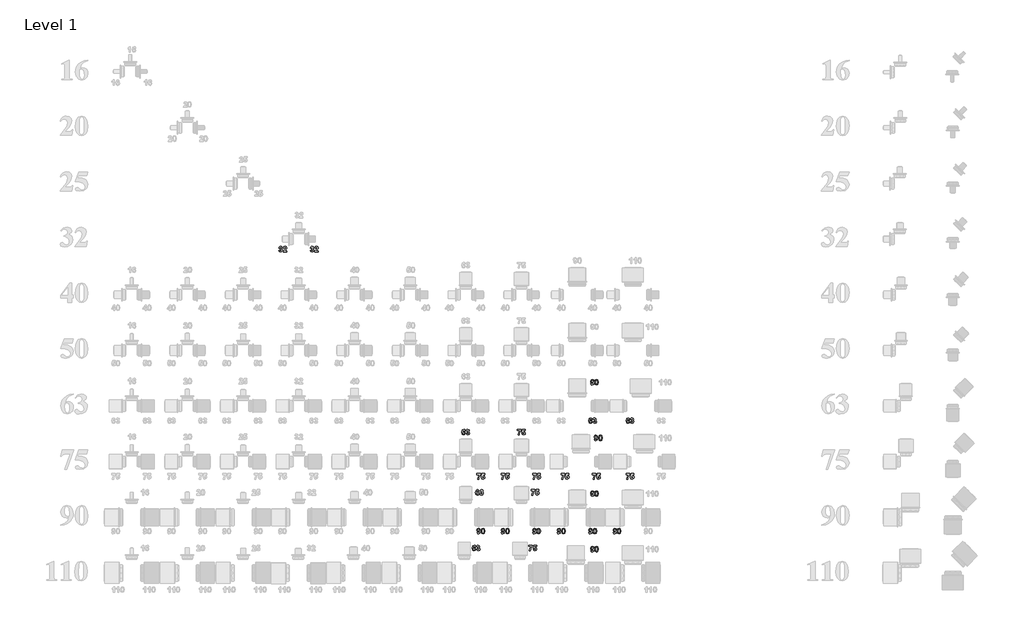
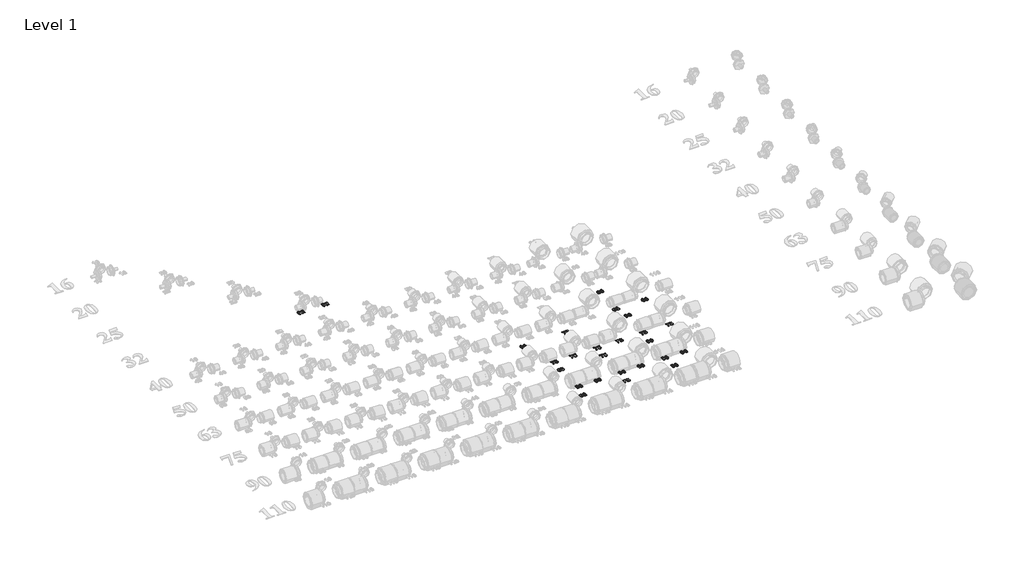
# One storey, part 23 of 57: 26 proxies.
"""IFC4 building model written with IfcOpenShell, lengths in millimetres."""

from ifc_helpers import new_model, si_unit, frame, origin, place, context, project, spatial, polyline, outline, extrude, element, save

model = new_model("IFC4")

# Units and contexts
model_context = context("Model", 3, world=origin())
ifc_project = project(units=[si_unit("LENGTHUNIT", "METRE", prefix="MILLI")], contexts=[model_context])

# Site, building, storey
site = spatial("IfcSite", under=ifc_project)
building = spatial("IfcBuilding", under=site)
storey = spatial("IfcBuildingStorey", under=building, Name="Level 1", Elevation=27.3876384)

# Proxies
placement = place(None, origin())
element("IfcBuildingElementProxy", 1, Name="30mm Arial", ObjectType="30mm Arial", at=placement, inside=storey, context=model_context, shape_type="SweptSolid", body=[
    extrude(outline(polyline([(14058.5952254, 17686.1341541), (14064.4252792, 17686.8097723), (14065.7385595, 17683.560732), (14068.3271641, 17682.437232), (14071.0827754, 17683.7239431), (14072.1986841, 17687.1893331), (14071.1776656, 17690.4611471), (14068.6839512, 17691.6681504), (14066.3686304, 17691.2354511), (14066.8772419, 17696.0406907), (14069.750517, 17696.9971839), (14070.7411707, 17699.6996567), (14070.0010271, 17701.9884083), (14068.0311067, 17702.84242), (14065.9549091, 17701.8517664), (14064.911117, 17698.9557175), (14059.0810633, 17699.8287074), (14060.6866054, 17704.4631446), (14063.6851356, 17707.1921867), (14067.9931506, 17708.1866359), (14074.5367786, 17705.4310246), (14076.5712244, 17700.3297276), (14072.2062753, 17693.8999678), (14076.4421737, 17691.3986622), (14078.0287378, 17686.7034953), (14075.2161924, 17679.9055616), (14068.2132958, 17677.0930161), (14061.6279161, 17679.5943217), (14058.5952254, 17686.1341541)])), frame((0.0, 0.0, 27.3876384), z_axis=(0.0, 0.0, 1.0), x_axis=(1.0, 0.0, 0.0)), (0.0, 0.0, 1.0), 2.0),
    extrude(outline(polyline([(14101.3489527, 17683.4089076), (14101.3489527, 17677.5788539), (14081.9154403, 17677.5788539), (14083.7752882, 17683.298835), (14089.8862169, 17690.4687383), (14094.395399, 17695.3574813), (14095.518899, 17698.864623), (14094.5737926, 17701.8138103), (14091.96621, 17702.84242), (14089.3548318, 17701.8289927), (14088.2313318, 17698.4698797), (14082.4012781, 17699.0012648), (14085.528859, 17706.0497087), (14092.0952607, 17708.1866359), (14098.8818076, 17705.7916074), (14101.3489527, 17699.8362986), (14100.6733345, 17695.979961), (14098.5326116, 17692.146397), (14094.9078061, 17688.3204243), (14091.579058, 17685.003063), (14090.4859229, 17683.4089076), (14101.3489527, 17683.4089076)])), frame((0.0, 0.0, 27.3876384), z_axis=(0.0, 0.0, 1.0), x_axis=(1.0, 0.0, 0.0)), (0.0, 0.0, 1.0), 2.0),
])
element("IfcBuildingElementProxy", 2, Name="30mm Arial", ObjectType="30mm Arial", at=placement, inside=storey, context=model_context, shape_type="SweptSolid", body=[
    extrude(outline(polyline([(14227.3452254, 17686.1341541), (14233.1752792, 17686.8097723), (14234.4885595, 17683.560732), (14237.0771641, 17682.437232), (14239.8327754, 17683.7239431), (14240.9486841, 17687.1893331), (14239.9276656, 17690.4611471), (14237.4339512, 17691.6681504), (14235.1186304, 17691.2354511), (14235.6272419, 17696.0406907), (14238.500517, 17696.9971839), (14239.4911707, 17699.6996567), (14238.7510271, 17701.9884083), (14236.7811067, 17702.84242), (14234.7049091, 17701.8517664), (14233.661117, 17698.9557175), (14227.8310633, 17699.8287074), (14229.4366054, 17704.4631446), (14232.4351356, 17707.1921867), (14236.7431506, 17708.1866359), (14243.2867786, 17705.4310246), (14245.3212244, 17700.3297276), (14240.9562753, 17693.8999678), (14245.1921737, 17691.3986622), (14246.7787378, 17686.7034953), (14243.9661924, 17679.9055616), (14236.9632958, 17677.0930161), (14230.3779161, 17679.5943217), (14227.3452254, 17686.1341541)])), frame((0.0, 0.0, 27.3876384), z_axis=(0.0, 0.0, 1.0), x_axis=(1.0, 0.0, 0.0)), (0.0, 0.0, 1.0), 2.0),
    extrude(outline(polyline([(14270.0989527, 17683.4089076), (14270.0989527, 17677.5788539), (14250.6654403, 17677.5788539), (14252.5252882, 17683.298835), (14258.6362169, 17690.4687383), (14263.145399, 17695.3574813), (14264.268899, 17698.864623), (14263.3237926, 17701.8138103), (14260.71621, 17702.84242), (14258.1048318, 17701.8289927), (14256.9813318, 17698.4698797), (14251.1512781, 17699.0012648), (14254.278859, 17706.0497087), (14260.8452607, 17708.1866359), (14267.6318076, 17705.7916074), (14270.0989527, 17699.8362986), (14269.4233345, 17695.979961), (14267.2826116, 17692.146397), (14263.6578061, 17688.3204243), (14260.329058, 17685.003063), (14259.2359229, 17683.4089076), (14270.0989527, 17683.4089076)])), frame((0.0, 0.0, 27.3876384), z_axis=(0.0, 0.0, 1.0), x_axis=(1.0, 0.0, 0.0)), (0.0, 0.0, 1.0), 2.0),
])
element("IfcBuildingElementProxy", 3, Name="30mm Arial", ObjectType="30mm Arial", at=placement, inside=storey, context=model_context, shape_type="SweptSolid", body=[
    extrude(outline(polyline([(15746.2929, 16775.0640351), (15740.4628463, 16774.4415554), (15739.430441, 16777.0111819), (15737.2593532, 16777.84242), (15734.2684142, 16776.2292867), (15732.7273974, 16769.4541266), (15738.0564309, 16772.0123663), (15744.2167025, 16769.2795286), (15746.7787378, 16762.2272892), (15744.1597684, 16754.8676055), (15737.42636, 16752.0930161), (15730.1843401, 16755.67607), (15727.3452254, 16767.4196808), (15730.3095952, 16779.4897138), (15738.0108836, 16783.1866359), (15743.514515, 16781.1066428), (15746.2929, 16775.0640351)]), holes=[polyline([(15733.1752792, 16762.3563398), (15734.435421, 16758.7163519), (15737.3124918, 16757.437232), (15739.9086876, 16758.4848198), (15740.9486841, 16761.9236405), (15739.8289798, 16765.5256724), (15737.0316168, 16766.6681504), (15734.2949835, 16765.5750153), (15733.1752792, 16762.3563398)])]), frame((0.0, 0.0, 27.3876384), z_axis=(0.0, 0.0, 1.0), x_axis=(1.0, 0.0, 0.0)), (0.0, 0.0, 1.0), 2.0),
    extrude(outline(polyline([(15750.6654403, 16761.1341541), (15756.495494, 16761.8097723), (15757.8087743, 16758.560732), (15760.3973789, 16757.437232), (15763.1529903, 16758.7239431), (15764.268899, 16762.1893331), (15763.2478804, 16765.4611471), (15760.7541661, 16766.6681504), (15758.4388453, 16766.2354511), (15758.9474567, 16771.0406907), (15761.8207319, 16771.9971839), (15762.8113855, 16774.6996567), (15762.071242, 16776.9884083), (15760.1013215, 16777.84242), (15758.025124, 16776.8517664), (15756.9813318, 16773.9557175), (15751.1512781, 16774.8287074), (15752.7568202, 16779.4631446), (15755.7553505, 16782.1921867), (15760.0633654, 16783.1866359), (15766.6069934, 16780.4310246), (15768.6414393, 16775.3297276), (15764.2764902, 16768.8999678), (15768.5123886, 16766.3986622), (15770.0989527, 16761.7034953), (15767.2864072, 16754.9055616), (15760.2835107, 16752.0930161), (15753.698131, 16754.5943217), (15750.6654403, 16761.1341541)])), frame((0.0, 0.0, 27.3876384), z_axis=(0.0, 0.0, 1.0), x_axis=(1.0, 0.0, 0.0)), (0.0, 0.0, 1.0), 2.0),
])
element("IfcBuildingElementProxy", 4, Name="30mm Arial", ObjectType="30mm Arial", at=placement, inside=storey, context=model_context, shape_type="SweptSolid", body=[
    extrude(outline(polyline([(15737.8496462, 16967.5170895), (15743.6796999, 16968.1395692), (15744.7159008, 16965.5737383), (15746.9287402, 16964.7387045), (15749.874132, 16966.3518379), (15751.4303312, 16973.1042243), (15746.0177943, 16970.5687582), (15739.9258437, 16973.2902091), (15737.3638084, 16980.376609), (15739.9941646, 16987.7059278), (15746.6934126, 16990.4881084), (15753.958206, 16986.9088502), (15756.7973207, 16975.1310789), (15753.8291554, 16963.0876151), (15746.1012977, 16959.3944886), (15740.5597102, 16961.4289344), (15737.8496462, 16967.5170895)]), holes=[polyline([(15750.967267, 16980.2399671), (15749.7147164, 16983.8571814), (15746.8224632, 16985.1438925), (15744.2262674, 16984.0887135), (15743.1938621, 16980.6347103), (15744.317362, 16977.0554521), (15747.1185206, 16975.9129741), (15749.8551539, 16977.0099048), (15750.967267, 16980.2399671)])]), frame((0.0, 0.0, 27.3876384), z_axis=(0.0, 0.0, 1.0), x_axis=(1.0, 0.0, 0.0)), (0.0, 0.0, 1.0), 2.0),
    extrude(outline(polyline([(15770.4007794, 16990.4881084), (15777.1949175, 16987.3301627), (15780.1175356, 16974.9337073), (15777.1797351, 16962.5068871), (15770.4007794, 16959.3944886), (15763.3599268, 16962.8105357), (15760.6840232, 16974.994437), (15763.6218237, 16987.37571), (15770.4007794, 16990.4881084)]), holes=[polyline([(15770.4007794, 16985.1438925), (15768.4574282, 16984.5024348), (15767.1365566, 16982.1985008), (15766.5140769, 16974.9337073), (15767.0682357, 16967.9156283), (15768.468815, 16965.372571), (15770.4007794, 16964.7387045), (15772.3441306, 16965.3801623), (15773.6650022, 16967.6840962), (15774.2874819, 16974.9337073), (15773.7333231, 16981.9479907), (15772.3327438, 16984.5024348), (15770.4007794, 16985.1438925)])]), frame((0.0, 0.0, 27.3876384), z_axis=(0.0, 0.0, 1.0), x_axis=(1.0, 0.0, 0.0)), (0.0, 0.0, 1.0), 2.0),
])
element("IfcBuildingElementProxy", 5, Name="30mm Arial", ObjectType="30mm Arial", at=placement, inside=storey, context=model_context, shape_type="SweptSolid", body=[
    extrude(outline(polyline([(15947.5429, 16775.0640351), (15941.7128463, 16774.4415554), (15940.680441, 16777.0111819), (15938.5093532, 16777.84242), (15935.5184142, 16776.2292867), (15933.9773974, 16769.4541266), (15939.3064309, 16772.0123663), (15945.4667025, 16769.2795286), (15948.0287378, 16762.2272892), (15945.4097684, 16754.8676055), (15938.67636, 16752.0930161), (15931.4343401, 16755.67607), (15928.5952254, 16767.4196808), (15931.5595952, 16779.4897138), (15939.2608836, 16783.1866359), (15944.764515, 16781.1066428), (15947.5429, 16775.0640351)]), holes=[polyline([(15934.4252792, 16762.3563398), (15935.685421, 16758.7163519), (15938.5624918, 16757.437232), (15941.1586876, 16758.4848198), (15942.1986841, 16761.9236405), (15941.0789798, 16765.5256724), (15938.2816168, 16766.6681504), (15935.5449835, 16765.5750153), (15934.4252792, 16762.3563398)])]), frame((0.0, 0.0, 27.3876384), z_axis=(0.0, 0.0, 1.0), x_axis=(1.0, 0.0, 0.0)), (0.0, 0.0, 1.0), 2.0),
    extrude(outline(polyline([(15951.9154403, 16761.1341541), (15957.745494, 16761.8097723), (15959.0587743, 16758.560732), (15961.6473789, 16757.437232), (15964.4029903, 16758.7239431), (15965.518899, 16762.1893331), (15964.4978804, 16765.4611471), (15962.0041661, 16766.6681504), (15959.6888453, 16766.2354511), (15960.1974567, 16771.0406907), (15963.0707319, 16771.9971839), (15964.0613855, 16774.6996567), (15963.321242, 16776.9884083), (15961.3513215, 16777.84242), (15959.275124, 16776.8517664), (15958.2313318, 16773.9557175), (15952.4012781, 16774.8287074), (15954.0068202, 16779.4631446), (15957.0053505, 16782.1921867), (15961.3133654, 16783.1866359), (15967.8569934, 16780.4310246), (15969.8914393, 16775.3297276), (15965.5264902, 16768.8999678), (15969.7623886, 16766.3986622), (15971.3489527, 16761.7034953), (15968.5364072, 16754.9055616), (15961.5335107, 16752.0930161), (15954.948131, 16754.5943217), (15951.9154403, 16761.1341541)])), frame((0.0, 0.0, 27.3876384), z_axis=(0.0, 0.0, 1.0), x_axis=(1.0, 0.0, 0.0)), (0.0, 0.0, 1.0), 2.0),
])
element("IfcBuildingElementProxy", 6, Name="30mm Arial", ObjectType="30mm Arial", at=placement, inside=storey, context=model_context, shape_type="SweptSolid", body=[
    extrude(outline(polyline([(15125.3452254, 16476.8707444), (15125.3452254, 16482.7007981), (15144.7787378, 16482.7007981), (15144.7787378, 16478.3282578), (15139.772331, 16471.3595218), (15135.8894242, 16461.7110865), (15134.5761438, 16452.5788539), (15128.7460901, 16452.5788539), (15131.4068112, 16465.2903447), (15138.1136504, 16476.8707444), (15125.3452254, 16476.8707444)])), frame((0.0, 0.0, 27.3876384), z_axis=(0.0, 0.0, 1.0), x_axis=(1.0, 0.0, 0.0)), (0.0, 0.0, 1.0), 2.0),
    extrude(outline(polyline([(15148.6654403, 16461.1948838), (15154.0096562, 16461.8097723), (15155.4975345, 16458.6138705), (15158.3518316, 16457.437232), (15161.4756169, 16458.685987), (15162.7547368, 16462.4474344), (15161.5667115, 16465.9773498), (15158.4732911, 16467.1539882), (15154.2070278, 16464.7247992), (15149.1512781, 16465.4763295), (15152.5521428, 16482.7007981), (15167.1272771, 16482.7007981), (15167.1272771, 16476.8707444), (15157.2662878, 16476.8707444), (15156.0896493, 16471.3063832), (15159.8473011, 16472.4982041), (15166.0417332, 16469.7387972), (15168.5847905, 16462.5764851), (15166.4668413, 16456.0252659), (15158.4429262, 16452.0930161), (15151.7588607, 16454.5601612), (15148.6654403, 16461.1948838)])), frame((0.0, 0.0, 27.3876384), z_axis=(0.0, 0.0, 1.0), x_axis=(1.0, 0.0, 0.0)), (0.0, 0.0, 1.0), 2.0),
])
element("IfcBuildingElementProxy", 7, Name="30mm Arial", ObjectType="30mm Arial", at=placement, inside=storey, context=model_context, shape_type="SweptSolid", body=[
    extrude(outline(polyline([(15062.4710848, 16713.8826756), (15056.6410311, 16713.2601959), (15055.6086258, 16715.8298225), (15053.4375381, 16716.6610606), (15050.446599, 16715.0479272), (15048.9055822, 16708.2727672), (15054.2346157, 16710.8310069), (15060.3948873, 16708.0981692), (15062.9569226, 16701.0459297), (15060.3379532, 16693.686246), (15053.6045448, 16690.9116567), (15046.362525, 16694.4947105), (15043.5234103, 16706.2383213), (15046.48778, 16718.3083544), (15054.1890684, 16722.0052765), (15059.6926998, 16719.9252834), (15062.4710848, 16713.8826756)]), holes=[polyline([(15049.353464, 16701.1749804), (15050.6136058, 16697.5349924), (15053.4906766, 16696.2558726), (15056.0868724, 16697.3034604), (15057.1268689, 16700.7422811), (15056.0071646, 16704.344313), (15053.2098016, 16705.486791), (15050.4731683, 16704.3936559), (15049.353464, 16701.1749804)])]), frame((0.0, 0.0, 27.3876384), z_axis=(0.0, 0.0, 1.0), x_axis=(1.0, 0.0, 0.0)), (0.0, 0.0, 1.0), 2.0),
    extrude(outline(polyline([(15066.8436251, 16699.9527947), (15072.6736788, 16700.6284129), (15073.9869592, 16697.3793725), (15076.5755637, 16696.2558726), (15079.3311751, 16697.5425837), (15080.4470838, 16701.0079737), (15079.4260653, 16704.2797877), (15076.9323509, 16705.486791), (15074.6170301, 16705.0540917), (15075.1256415, 16709.8593313), (15077.9989167, 16710.8158244), (15078.9895703, 16713.5182973), (15078.2494268, 16715.8070488), (15076.2795063, 16716.6610606), (15074.2033088, 16715.6704069), (15073.1595166, 16712.7743581), (15067.3294629, 16713.6473479), (15068.9350051, 16718.2817852), (15071.9335353, 16721.0108272), (15076.2415502, 16722.0052765), (15082.7851782, 16719.2496652), (15084.8196241, 16714.1483682), (15080.454675, 16707.7186084), (15084.6905734, 16705.2173028), (15086.2771375, 16700.5221359), (15083.464592, 16693.7242021), (15076.4616955, 16690.9116567), (15069.8763158, 16693.4129623), (15066.8436251, 16699.9527947)])), frame((0.0, 0.0, 27.3876384), z_axis=(0.0, 0.0, 1.0), x_axis=(1.0, 0.0, 0.0)), (0.0, 0.0, 1.0), 2.0),
])
element("IfcBuildingElementProxy", 8, Name="30mm Arial", ObjectType="30mm Arial", at=placement, inside=storey, context=model_context, shape_type="SweptSolid", body=[
    extrude(outline(polyline([(15256.5952254, 16476.8707444), (15256.5952254, 16482.7007981), (15276.0287378, 16482.7007981), (15276.0287378, 16478.3282578), (15271.022331, 16471.3595218), (15267.1394242, 16461.7110865), (15265.8261438, 16452.5788539), (15259.9960901, 16452.5788539), (15262.6568112, 16465.2903447), (15269.3636504, 16476.8707444), (15256.5952254, 16476.8707444)])), frame((0.0, 0.0, 27.3876384), z_axis=(0.0, 0.0, 1.0), x_axis=(1.0, 0.0, 0.0)), (0.0, 0.0, 1.0), 2.0),
    extrude(outline(polyline([(15279.9154403, 16461.1948838), (15285.2596562, 16461.8097723), (15286.7475345, 16458.6138705), (15289.6018316, 16457.437232), (15292.7256169, 16458.685987), (15294.0047368, 16462.4474344), (15292.8167115, 16465.9773498), (15289.7232911, 16467.1539882), (15285.4570278, 16464.7247992), (15280.4012781, 16465.4763295), (15283.8021428, 16482.7007981), (15298.3772771, 16482.7007981), (15298.3772771, 16476.8707444), (15288.5162878, 16476.8707444), (15287.3396493, 16471.3063832), (15291.0973011, 16472.4982041), (15297.2917332, 16469.7387972), (15299.8347905, 16462.5764851), (15297.7168413, 16456.0252659), (15289.6929262, 16452.0930161), (15283.0088607, 16454.5601612), (15279.9154403, 16461.1948838)])), frame((0.0, 0.0, 27.3876384), z_axis=(0.0, 0.0, 1.0), x_axis=(1.0, 0.0, 0.0)), (0.0, 0.0, 1.0), 2.0),
])
element("IfcBuildingElementProxy", 9, Name="30mm Arial", ObjectType="30mm Arial", at=placement, inside=storey, context=model_context, shape_type="SweptSolid", body=[
    extrude(outline(polyline([(15425.3452254, 16476.8707444), (15425.3452254, 16482.7007981), (15444.7787378, 16482.7007981), (15444.7787378, 16478.3282578), (15439.772331, 16471.3595218), (15435.8894242, 16461.7110865), (15434.5761438, 16452.5788539), (15428.7460901, 16452.5788539), (15431.4068112, 16465.2903447), (15438.1136504, 16476.8707444), (15425.3452254, 16476.8707444)])), frame((0.0, 0.0, 27.3876384), z_axis=(0.0, 0.0, 1.0), x_axis=(1.0, 0.0, 0.0)), (0.0, 0.0, 1.0), 2.0),
    extrude(outline(polyline([(15448.6654403, 16461.1948838), (15454.0096562, 16461.8097723), (15455.4975345, 16458.6138705), (15458.3518316, 16457.437232), (15461.4756169, 16458.685987), (15462.7547368, 16462.4474344), (15461.5667115, 16465.9773498), (15458.4732911, 16467.1539882), (15454.2070278, 16464.7247992), (15449.1512781, 16465.4763295), (15452.5521428, 16482.7007981), (15467.1272771, 16482.7007981), (15467.1272771, 16476.8707444), (15457.2662878, 16476.8707444), (15456.0896493, 16471.3063832), (15459.8473011, 16472.4982041), (15466.0417332, 16469.7387972), (15468.5847905, 16462.5764851), (15466.4668413, 16456.0252659), (15458.4429262, 16452.0930161), (15451.7588607, 16454.5601612), (15448.6654403, 16461.1948838)])), frame((0.0, 0.0, 27.3876384), z_axis=(0.0, 0.0, 1.0), x_axis=(1.0, 0.0, 0.0)), (0.0, 0.0, 1.0), 2.0),
])
element("IfcBuildingElementProxy", 10, Name="30mm Arial", ObjectType="30mm Arial", at=placement, inside=storey, context=model_context, shape_type="SweptSolid", body=[
    extrude(outline(polyline([(15343.5234103, 16715.689385), (15343.5234103, 16721.5194387), (15362.9569226, 16721.5194387), (15362.9569226, 16717.1468984), (15357.9505158, 16710.1781623), (15354.067609, 16700.5297271), (15352.7543286, 16691.3974945), (15346.9242749, 16691.3974945), (15349.584996, 16704.1089853), (15356.2918352, 16715.689385), (15343.5234103, 16715.689385)])), frame((0.0, 0.0, 27.3876384), z_axis=(0.0, 0.0, 1.0), x_axis=(1.0, 0.0, 0.0)), (0.0, 0.0, 1.0), 2.0),
    extrude(outline(polyline([(15366.8436251, 16700.0135244), (15372.187841, 16700.6284129), (15373.6757193, 16697.432511), (15376.5300164, 16696.2558726), (15379.6538017, 16697.5046276), (15380.9329216, 16701.266075), (15379.7448963, 16704.7959903), (15376.6514759, 16705.9726288), (15372.3852126, 16703.5434397), (15367.3294629, 16704.2949701), (15370.7303276, 16721.5194387), (15385.3054619, 16721.5194387), (15385.3054619, 16715.689385), (15375.4444726, 16715.689385), (15374.2678341, 16710.1250238), (15378.0254859, 16711.3168447), (15384.219918, 16708.5574377), (15386.7629753, 16701.3951257), (15384.6450261, 16694.8439065), (15376.621111, 16690.9116567), (15369.9370455, 16693.3788018), (15366.8436251, 16700.0135244)])), frame((0.0, 0.0, 27.3876384), z_axis=(0.0, 0.0, 1.0), x_axis=(1.0, 0.0, 0.0)), (0.0, 0.0, 1.0), 2.0),
])
element("IfcBuildingElementProxy", 11, Name="30mm Arial", ObjectType="30mm Arial", at=placement, inside=storey, context=model_context, shape_type="SweptSolid", body=[
    extrude(outline(polyline([(15578.5952254, 16476.8707444), (15578.5952254, 16482.7007981), (15598.0287378, 16482.7007981), (15598.0287378, 16478.3282578), (15593.022331, 16471.3595218), (15589.1394242, 16461.7110865), (15587.8261438, 16452.5788539), (15581.9960901, 16452.5788539), (15584.6568112, 16465.2903447), (15591.3636504, 16476.8707444), (15578.5952254, 16476.8707444)])), frame((0.0, 0.0, 27.3876384), z_axis=(0.0, 0.0, 1.0), x_axis=(1.0, 0.0, 0.0)), (0.0, 0.0, 1.0), 2.0),
    extrude(outline(polyline([(15601.9154403, 16461.1948838), (15607.2596562, 16461.8097723), (15608.7475345, 16458.6138705), (15611.6018316, 16457.437232), (15614.7256169, 16458.685987), (15616.0047368, 16462.4474344), (15614.8167115, 16465.9773498), (15611.7232911, 16467.1539882), (15607.4570278, 16464.7247992), (15602.4012781, 16465.4763295), (15605.8021428, 16482.7007981), (15620.3772771, 16482.7007981), (15620.3772771, 16476.8707444), (15610.5162878, 16476.8707444), (15609.3396493, 16471.3063832), (15613.0973011, 16472.4982041), (15619.2917332, 16469.7387972), (15621.8347905, 16462.5764851), (15619.7168413, 16456.0252659), (15611.6929262, 16452.0930161), (15605.0088607, 16454.5601612), (15601.9154403, 16461.1948838)])), frame((0.0, 0.0, 27.3876384), z_axis=(0.0, 0.0, 1.0), x_axis=(1.0, 0.0, 0.0)), (0.0, 0.0, 1.0), 2.0),
])
element("IfcBuildingElementProxy", 12, Name="30mm Arial", ObjectType="30mm Arial", at=placement, inside=storey, context=model_context, shape_type="SweptSolid", body=[
    extrude(outline(polyline([(15747.3452254, 16476.8707444), (15747.3452254, 16482.7007981), (15766.7787378, 16482.7007981), (15766.7787378, 16478.3282578), (15761.772331, 16471.3595218), (15757.8894242, 16461.7110865), (15756.5761438, 16452.5788539), (15750.7460901, 16452.5788539), (15753.4068112, 16465.2903447), (15760.1136504, 16476.8707444), (15747.3452254, 16476.8707444)])), frame((0.0, 0.0, 27.3876384), z_axis=(0.0, 0.0, 1.0), x_axis=(1.0, 0.0, 0.0)), (0.0, 0.0, 1.0), 2.0),
    extrude(outline(polyline([(15770.6654403, 16461.1948838), (15776.0096562, 16461.8097723), (15777.4975345, 16458.6138705), (15780.3518316, 16457.437232), (15783.4756169, 16458.685987), (15784.7547368, 16462.4474344), (15783.5667115, 16465.9773498), (15780.4732911, 16467.1539882), (15776.2070278, 16464.7247992), (15771.1512781, 16465.4763295), (15774.5521428, 16482.7007981), (15789.1272771, 16482.7007981), (15789.1272771, 16476.8707444), (15779.2662878, 16476.8707444), (15778.0896493, 16471.3063832), (15781.8473011, 16472.4982041), (15788.0417332, 16469.7387972), (15790.5847905, 16462.5764851), (15788.4668413, 16456.0252659), (15780.4429262, 16452.0930161), (15773.7588607, 16454.5601612), (15770.6654403, 16461.1948838)])), frame((0.0, 0.0, 27.3876384), z_axis=(0.0, 0.0, 1.0), x_axis=(1.0, 0.0, 0.0)), (0.0, 0.0, 1.0), 2.0),
])
element("IfcBuildingElementProxy", 13, Name="30mm Arial", ObjectType="30mm Arial", at=placement, inside=storey, context=model_context, shape_type="SweptSolid", body=[
    extrude(outline(polyline([(15757.8496462, 16667.5170895), (15763.6796999, 16668.1395692), (15764.7159008, 16665.5737383), (15766.9287402, 16664.7387045), (15769.874132, 16666.3518379), (15771.4303312, 16673.1042243), (15766.0177943, 16670.5687582), (15759.9258437, 16673.2902091), (15757.3638084, 16680.376609), (15759.9941646, 16687.7059278), (15766.6934126, 16690.4881084), (15773.958206, 16686.9088502), (15776.7973207, 16675.1310789), (15773.8291554, 16663.0876151), (15766.1012977, 16659.3944886), (15760.5597102, 16661.4289344), (15757.8496462, 16667.5170895)]), holes=[polyline([(15770.967267, 16680.2399671), (15769.7147164, 16683.8571814), (15766.8224632, 16685.1438925), (15764.2262674, 16684.0887135), (15763.1938621, 16680.6347103), (15764.317362, 16677.0554521), (15767.1185206, 16675.9129741), (15769.8551539, 16677.0099048), (15770.967267, 16680.2399671)])]), frame((0.0, 0.0, 27.3876384), z_axis=(0.0, 0.0, 1.0), x_axis=(1.0, 0.0, 0.0)), (0.0, 0.0, 1.0), 2.0),
    extrude(outline(polyline([(15790.4007794, 16690.4881084), (15797.1949175, 16687.3301627), (15800.1175356, 16674.9337073), (15797.1797351, 16662.5068871), (15790.4007794, 16659.3944886), (15783.3599268, 16662.8105357), (15780.6840232, 16674.994437), (15783.6218237, 16687.37571), (15790.4007794, 16690.4881084)]), holes=[polyline([(15790.4007794, 16685.1438925), (15788.4574282, 16684.5024348), (15787.1365566, 16682.1985008), (15786.5140769, 16674.9337073), (15787.0682357, 16667.9156283), (15788.468815, 16665.372571), (15790.4007794, 16664.7387045), (15792.3441306, 16665.3801623), (15793.6650022, 16667.6840962), (15794.2874819, 16674.9337073), (15793.7333231, 16681.9479907), (15792.3327438, 16684.5024348), (15790.4007794, 16685.1438925)])]), frame((0.0, 0.0, 27.3876384), z_axis=(0.0, 0.0, 1.0), x_axis=(1.0, 0.0, 0.0)), (0.0, 0.0, 1.0), 2.0),
])
element("IfcBuildingElementProxy", 14, Name="30mm Arial", ObjectType="30mm Arial", at=placement, inside=storey, context=model_context, shape_type="SweptSolid", body=[
    extrude(outline(polyline([(15928.5952254, 16476.8707444), (15928.5952254, 16482.7007981), (15948.0287378, 16482.7007981), (15948.0287378, 16478.3282578), (15943.022331, 16471.3595218), (15939.1394242, 16461.7110865), (15937.8261438, 16452.5788539), (15931.9960901, 16452.5788539), (15934.6568112, 16465.2903447), (15941.3636504, 16476.8707444), (15928.5952254, 16476.8707444)])), frame((0.0, 0.0, 27.3876384), z_axis=(0.0, 0.0, 1.0), x_axis=(1.0, 0.0, 0.0)), (0.0, 0.0, 1.0), 2.0),
    extrude(outline(polyline([(15951.9154403, 16461.1948838), (15957.2596562, 16461.8097723), (15958.7475345, 16458.6138705), (15961.6018316, 16457.437232), (15964.7256169, 16458.685987), (15966.0047368, 16462.4474344), (15964.8167115, 16465.9773498), (15961.7232911, 16467.1539882), (15957.4570278, 16464.7247992), (15952.4012781, 16465.4763295), (15955.8021428, 16482.7007981), (15970.3772771, 16482.7007981), (15970.3772771, 16476.8707444), (15960.5162878, 16476.8707444), (15959.3396493, 16471.3063832), (15963.0973011, 16472.4982041), (15969.2917332, 16469.7387972), (15971.8347905, 16462.5764851), (15969.7168413, 16456.0252659), (15961.6929262, 16452.0930161), (15955.0088607, 16454.5601612), (15951.9154403, 16461.1948838)])), frame((0.0, 0.0, 27.3876384), z_axis=(0.0, 0.0, 1.0), x_axis=(1.0, 0.0, 0.0)), (0.0, 0.0, 1.0), 2.0),
])
element("IfcBuildingElementProxy", 15, Name="30mm Arial", ObjectType="30mm Arial", at=placement, inside=storey, context=model_context, shape_type="SweptSolid", body=[
    extrude(outline(polyline([(15125.8310633, 16165.215617), (15131.661117, 16165.8380967), (15132.6973179, 16163.2722658), (15134.9101573, 16162.437232), (15137.855549, 16164.0503654), (15139.4117483, 16170.8027518), (15133.9992114, 16168.2672857), (15127.9072608, 16170.9887366), (15125.3452254, 16178.0751365), (15127.9755817, 16185.4044553), (15134.6748296, 16188.1866359), (15141.9396231, 16184.6073777), (15144.7787378, 16172.8296064), (15141.8105725, 16160.7861426), (15134.0827148, 16157.0930161), (15128.5411273, 16159.1274619), (15125.8310633, 16165.215617)]), holes=[polyline([(15138.9486841, 16177.9384946), (15137.6961335, 16181.555709), (15134.8038803, 16182.84242), (15132.2076845, 16181.787241), (15131.1752792, 16178.3332379), (15132.2987791, 16174.7539796), (15135.0999377, 16173.6115016), (15137.836571, 16174.7084323), (15138.9486841, 16177.9384946)])]), frame((0.0, 0.0, 27.3876384), z_axis=(0.0, 0.0, 1.0), x_axis=(1.0, 0.0, 0.0)), (0.0, 0.0, 1.0), 2.0),
    extrude(outline(polyline([(15158.3821965, 16188.1866359), (15165.1763346, 16185.0286902), (15168.0989527, 16172.6322348), (15165.1611522, 16160.2054146), (15158.3821965, 16157.0930161), (15151.3413439, 16160.5090632), (15148.6654403, 16172.6929645), (15151.6032408, 16185.0742375), (15158.3821965, 16188.1866359)]), holes=[polyline([(15158.3821965, 16182.84242), (15156.4388453, 16182.2009623), (15155.1179737, 16179.8970283), (15154.495494, 16172.6322348), (15155.0496528, 16165.6141558), (15156.4502321, 16163.0710985), (15158.3821965, 16162.437232), (15160.3255477, 16163.0786898), (15161.6464193, 16165.3826237), (15162.268899, 16172.6322348), (15161.7147402, 16179.6465182), (15160.3141609, 16182.2009623), (15158.3821965, 16182.84242)])]), frame((0.0, 0.0, 27.3876384), z_axis=(0.0, 0.0, 1.0), x_axis=(1.0, 0.0, 0.0)), (0.0, 0.0, 1.0), 2.0),
])
element("IfcBuildingElementProxy", 16, Name="30mm Arial", ObjectType="30mm Arial", at=placement, inside=storey, context=model_context, shape_type="SweptSolid", body=[
    extrude(outline(polyline([(15257.0810633, 16165.215617), (15262.911117, 16165.8380967), (15263.9473179, 16163.2722658), (15266.1601573, 16162.437232), (15269.105549, 16164.0503654), (15270.6617483, 16170.8027518), (15265.2492114, 16168.2672857), (15259.1572608, 16170.9887366), (15256.5952254, 16178.0751365), (15259.2255817, 16185.4044553), (15265.9248296, 16188.1866359), (15273.1896231, 16184.6073777), (15276.0287378, 16172.8296064), (15273.0605725, 16160.7861426), (15265.3327148, 16157.0930161), (15259.7911273, 16159.1274619), (15257.0810633, 16165.215617)]), holes=[polyline([(15270.1986841, 16177.9384946), (15268.9461335, 16181.555709), (15266.0538803, 16182.84242), (15263.4576845, 16181.787241), (15262.4252792, 16178.3332379), (15263.5487791, 16174.7539796), (15266.3499377, 16173.6115016), (15269.086571, 16174.7084323), (15270.1986841, 16177.9384946)])]), frame((0.0, 0.0, 27.3876384), z_axis=(0.0, 0.0, 1.0), x_axis=(1.0, 0.0, 0.0)), (0.0, 0.0, 1.0), 2.0),
    extrude(outline(polyline([(15289.6321965, 16188.1866359), (15296.4263346, 16185.0286902), (15299.3489527, 16172.6322348), (15296.4111522, 16160.2054146), (15289.6321965, 16157.0930161), (15282.5913439, 16160.5090632), (15279.9154403, 16172.6929645), (15282.8532408, 16185.0742375), (15289.6321965, 16188.1866359)]), holes=[polyline([(15289.6321965, 16182.84242), (15287.6888453, 16182.2009623), (15286.3679737, 16179.8970283), (15285.745494, 16172.6322348), (15286.2996528, 16165.6141558), (15287.7002321, 16163.0710985), (15289.6321965, 16162.437232), (15291.5755477, 16163.0786898), (15292.8964193, 16165.3826237), (15293.518899, 16172.6322348), (15292.9647402, 16179.6465182), (15291.5641609, 16182.2009623), (15289.6321965, 16182.84242)])]), frame((0.0, 0.0, 27.3876384), z_axis=(0.0, 0.0, 1.0), x_axis=(1.0, 0.0, 0.0)), (0.0, 0.0, 1.0), 2.0),
])
element("IfcBuildingElementProxy", 17, Name="30mm Arial", ObjectType="30mm Arial", at=placement, inside=storey, context=model_context, shape_type="SweptSolid", body=[
    extrude(outline(polyline([(15425.8310633, 16165.215617), (15431.661117, 16165.8380967), (15432.6973179, 16163.2722658), (15434.9101573, 16162.437232), (15437.855549, 16164.0503654), (15439.4117483, 16170.8027518), (15433.9992114, 16168.2672857), (15427.9072608, 16170.9887366), (15425.3452254, 16178.0751365), (15427.9755817, 16185.4044553), (15434.6748296, 16188.1866359), (15441.9396231, 16184.6073777), (15444.7787378, 16172.8296064), (15441.8105725, 16160.7861426), (15434.0827148, 16157.0930161), (15428.5411273, 16159.1274619), (15425.8310633, 16165.215617)]), holes=[polyline([(15438.9486841, 16177.9384946), (15437.6961335, 16181.555709), (15434.8038803, 16182.84242), (15432.2076845, 16181.787241), (15431.1752792, 16178.3332379), (15432.2987791, 16174.7539796), (15435.0999377, 16173.6115016), (15437.836571, 16174.7084323), (15438.9486841, 16177.9384946)])]), frame((0.0, 0.0, 27.3876384), z_axis=(0.0, 0.0, 1.0), x_axis=(1.0, 0.0, 0.0)), (0.0, 0.0, 1.0), 2.0),
    extrude(outline(polyline([(15458.3821965, 16188.1866359), (15465.1763346, 16185.0286902), (15468.0989527, 16172.6322348), (15465.1611522, 16160.2054146), (15458.3821965, 16157.0930161), (15451.3413439, 16160.5090632), (15448.6654403, 16172.6929645), (15451.6032408, 16185.0742375), (15458.3821965, 16188.1866359)]), holes=[polyline([(15458.3821965, 16182.84242), (15456.4388453, 16182.2009623), (15455.1179737, 16179.8970283), (15454.495494, 16172.6322348), (15455.0496528, 16165.6141558), (15456.4502321, 16163.0710985), (15458.3821965, 16162.437232), (15460.3255477, 16163.0786898), (15461.6464193, 16165.3826237), (15462.268899, 16172.6322348), (15461.7147402, 16179.6465182), (15460.3141609, 16182.2009623), (15458.3821965, 16182.84242)])]), frame((0.0, 0.0, 27.3876384), z_axis=(0.0, 0.0, 1.0), x_axis=(1.0, 0.0, 0.0)), (0.0, 0.0, 1.0), 2.0),
])
element("IfcBuildingElementProxy", 18, Name="30mm Arial", ObjectType="30mm Arial", at=placement, inside=storey, context=model_context, shape_type="SweptSolid", body=[
    extrude(outline(polyline([(15559.0810633, 16165.215617), (15564.911117, 16165.8380967), (15565.9473179, 16163.2722658), (15568.1601573, 16162.437232), (15571.105549, 16164.0503654), (15572.6617483, 16170.8027518), (15567.2492114, 16168.2672857), (15561.1572608, 16170.9887366), (15558.5952254, 16178.0751365), (15561.2255817, 16185.4044553), (15567.9248296, 16188.1866359), (15575.1896231, 16184.6073777), (15578.0287378, 16172.8296064), (15575.0605725, 16160.7861426), (15567.3327148, 16157.0930161), (15561.7911273, 16159.1274619), (15559.0810633, 16165.215617)]), holes=[polyline([(15572.1986841, 16177.9384946), (15570.9461335, 16181.555709), (15568.0538803, 16182.84242), (15565.4576845, 16181.787241), (15564.4252792, 16178.3332379), (15565.5487791, 16174.7539796), (15568.3499377, 16173.6115016), (15571.086571, 16174.7084323), (15572.1986841, 16177.9384946)])]), frame((0.0, 0.0, 27.3876384), z_axis=(0.0, 0.0, 1.0), x_axis=(1.0, 0.0, 0.0)), (0.0, 0.0, 1.0), 2.0),
    extrude(outline(polyline([(15591.6321965, 16188.1866359), (15598.4263346, 16185.0286902), (15601.3489527, 16172.6322348), (15598.4111522, 16160.2054146), (15591.6321965, 16157.0930161), (15584.5913439, 16160.5090632), (15581.9154403, 16172.6929645), (15584.8532408, 16185.0742375), (15591.6321965, 16188.1866359)]), holes=[polyline([(15591.6321965, 16182.84242), (15589.6888453, 16182.2009623), (15588.3679737, 16179.8970283), (15587.745494, 16172.6322348), (15588.2996528, 16165.6141558), (15589.7002321, 16163.0710985), (15591.6321965, 16162.437232), (15593.5755477, 16163.0786898), (15594.8964193, 16165.3826237), (15595.518899, 16172.6322348), (15594.9647402, 16179.6465182), (15593.5641609, 16182.2009623), (15591.6321965, 16182.84242)])]), frame((0.0, 0.0, 27.3876384), z_axis=(0.0, 0.0, 1.0), x_axis=(1.0, 0.0, 0.0)), (0.0, 0.0, 1.0), 2.0),
])
element("IfcBuildingElementProxy", 19, Name="30mm Arial", ObjectType="30mm Arial", at=placement, inside=storey, context=model_context, shape_type="SweptSolid", body=[
    extrude(outline(polyline([(15727.8310633, 16165.215617), (15733.661117, 16165.8380967), (15734.6973179, 16163.2722658), (15736.9101573, 16162.437232), (15739.855549, 16164.0503654), (15741.4117483, 16170.8027518), (15735.9992114, 16168.2672857), (15729.9072608, 16170.9887366), (15727.3452254, 16178.0751365), (15729.9755817, 16185.4044553), (15736.6748296, 16188.1866359), (15743.9396231, 16184.6073777), (15746.7787378, 16172.8296064), (15743.8105725, 16160.7861426), (15736.0827148, 16157.0930161), (15730.5411273, 16159.1274619), (15727.8310633, 16165.215617)]), holes=[polyline([(15740.9486841, 16177.9384946), (15739.6961335, 16181.555709), (15736.8038803, 16182.84242), (15734.2076845, 16181.787241), (15733.1752792, 16178.3332379), (15734.2987791, 16174.7539796), (15737.0999377, 16173.6115016), (15739.836571, 16174.7084323), (15740.9486841, 16177.9384946)])]), frame((0.0, 0.0, 27.3876384), z_axis=(0.0, 0.0, 1.0), x_axis=(1.0, 0.0, 0.0)), (0.0, 0.0, 1.0), 2.0),
    extrude(outline(polyline([(15760.3821965, 16188.1866359), (15767.1763346, 16185.0286902), (15770.0989527, 16172.6322348), (15767.1611522, 16160.2054146), (15760.3821965, 16157.0930161), (15753.3413439, 16160.5090632), (15750.6654403, 16172.6929645), (15753.6032408, 16185.0742375), (15760.3821965, 16188.1866359)]), holes=[polyline([(15760.3821965, 16182.84242), (15758.4388453, 16182.2009623), (15757.1179737, 16179.8970283), (15756.495494, 16172.6322348), (15757.0496528, 16165.6141558), (15758.4502321, 16163.0710985), (15760.3821965, 16162.437232), (15762.3255477, 16163.0786898), (15763.6464193, 16165.3826237), (15764.268899, 16172.6322348), (15763.7147402, 16179.6465182), (15762.3141609, 16182.2009623), (15760.3821965, 16182.84242)])]), frame((0.0, 0.0, 27.3876384), z_axis=(0.0, 0.0, 1.0), x_axis=(1.0, 0.0, 0.0)), (0.0, 0.0, 1.0), 2.0),
])
element("IfcBuildingElementProxy", 20, Name="30mm Arial", ObjectType="30mm Arial", at=placement, inside=storey, context=model_context, shape_type="SweptSolid", body=[
    extrude(outline(polyline([(15737.8496462, 16367.5170895), (15743.6796999, 16368.1395692), (15744.7159008, 16365.5737383), (15746.9287402, 16364.7387045), (15749.874132, 16366.3518379), (15751.4303312, 16373.1042243), (15746.0177943, 16370.5687582), (15739.9258437, 16373.2902091), (15737.3638084, 16380.376609), (15739.9941646, 16387.7059278), (15746.6934126, 16390.4881084), (15753.958206, 16386.9088502), (15756.7973207, 16375.1310789), (15753.8291554, 16363.0876151), (15746.1012977, 16359.3944886), (15740.5597102, 16361.4289344), (15737.8496462, 16367.5170895)]), holes=[polyline([(15750.967267, 16380.2399671), (15749.7147164, 16383.8571814), (15746.8224632, 16385.1438925), (15744.2262674, 16384.0887135), (15743.1938621, 16380.6347103), (15744.317362, 16377.0554521), (15747.1185206, 16375.9129741), (15749.8551539, 16377.0099048), (15750.967267, 16380.2399671)])]), frame((0.0, 0.0, 27.3876384), z_axis=(0.0, 0.0, 1.0), x_axis=(1.0, 0.0, 0.0)), (0.0, 0.0, 1.0), 2.0),
    extrude(outline(polyline([(15770.4007794, 16390.4881084), (15777.1949175, 16387.3301627), (15780.1175356, 16374.9337073), (15777.1797351, 16362.5068871), (15770.4007794, 16359.3944886), (15763.3599268, 16362.8105357), (15760.6840232, 16374.994437), (15763.6218237, 16387.37571), (15770.4007794, 16390.4881084)]), holes=[polyline([(15770.4007794, 16385.1438925), (15768.4574282, 16384.5024348), (15767.1365566, 16382.1985008), (15766.5140769, 16374.9337073), (15767.0682357, 16367.9156283), (15768.468815, 16365.372571), (15770.4007794, 16364.7387045), (15772.3441306, 16365.3801623), (15773.6650022, 16367.6840962), (15774.2874819, 16374.9337073), (15773.7333231, 16381.9479907), (15772.3327438, 16384.5024348), (15770.4007794, 16385.1438925)])]), frame((0.0, 0.0, 27.3876384), z_axis=(0.0, 0.0, 1.0), x_axis=(1.0, 0.0, 0.0)), (0.0, 0.0, 1.0), 2.0),
])
element("IfcBuildingElementProxy", 21, Name="30mm Arial", ObjectType="30mm Arial", at=placement, inside=storey, context=model_context, shape_type="SweptSolid", body=[
    extrude(outline(polyline([(15859.0810633, 16165.215617), (15864.911117, 16165.8380967), (15865.9473179, 16163.2722658), (15868.1601573, 16162.437232), (15871.105549, 16164.0503654), (15872.6617483, 16170.8027518), (15867.2492114, 16168.2672857), (15861.1572608, 16170.9887366), (15858.5952254, 16178.0751365), (15861.2255817, 16185.4044553), (15867.9248296, 16188.1866359), (15875.1896231, 16184.6073777), (15878.0287378, 16172.8296064), (15875.0605725, 16160.7861426), (15867.3327148, 16157.0930161), (15861.7911273, 16159.1274619), (15859.0810633, 16165.215617)]), holes=[polyline([(15872.1986841, 16177.9384946), (15870.9461335, 16181.555709), (15868.0538803, 16182.84242), (15865.4576845, 16181.787241), (15864.4252792, 16178.3332379), (15865.5487791, 16174.7539796), (15868.3499377, 16173.6115016), (15871.086571, 16174.7084323), (15872.1986841, 16177.9384946)])]), frame((0.0, 0.0, 27.3876384), z_axis=(0.0, 0.0, 1.0), x_axis=(1.0, 0.0, 0.0)), (0.0, 0.0, 1.0), 2.0),
    extrude(outline(polyline([(15891.6321965, 16188.1866359), (15898.4263346, 16185.0286902), (15901.3489527, 16172.6322348), (15898.4111522, 16160.2054146), (15891.6321965, 16157.0930161), (15884.5913439, 16160.5090632), (15881.9154403, 16172.6929645), (15884.8532408, 16185.0742375), (15891.6321965, 16188.1866359)]), holes=[polyline([(15891.6321965, 16182.84242), (15889.6888453, 16182.2009623), (15888.3679737, 16179.8970283), (15887.745494, 16172.6322348), (15888.2996528, 16165.6141558), (15889.7002321, 16163.0710985), (15891.6321965, 16162.437232), (15893.5755477, 16163.0786898), (15894.8964193, 16165.3826237), (15895.518899, 16172.6322348), (15894.9647402, 16179.6465182), (15893.5641609, 16182.2009623), (15891.6321965, 16182.84242)])]), frame((0.0, 0.0, 27.3876384), z_axis=(0.0, 0.0, 1.0), x_axis=(1.0, 0.0, 0.0)), (0.0, 0.0, 1.0), 2.0),
])
element("IfcBuildingElementProxy", 22, Name="30mm Arial", ObjectType="30mm Arial", at=placement, inside=storey, context=model_context, shape_type="SweptSolid", body=[
    extrude(outline(polyline([(15136.4710848, 16388.8826756), (15130.6410311, 16388.2601959), (15129.6086258, 16390.8298225), (15127.4375381, 16391.6610606), (15124.446599, 16390.0479272), (15122.9055822, 16383.2727672), (15128.2346157, 16385.8310069), (15134.3948873, 16383.0981692), (15136.9569226, 16376.0459297), (15134.3379532, 16368.686246), (15127.6045448, 16365.9116567), (15120.362525, 16369.4947105), (15117.5234103, 16381.2383213), (15120.48778, 16393.3083544), (15128.1890684, 16397.0052765), (15133.6926998, 16394.9252834), (15136.4710848, 16388.8826756)]), holes=[polyline([(15123.353464, 16376.1749804), (15124.6136058, 16372.5349924), (15127.4906766, 16371.2558726), (15130.0868724, 16372.3034604), (15131.1268689, 16375.7422811), (15130.0071646, 16379.344313), (15127.2098016, 16380.486791), (15124.4731683, 16379.3936559), (15123.353464, 16376.1749804)])]), frame((0.0, 0.0, 27.3876384), z_axis=(0.0, 0.0, 1.0), x_axis=(1.0, 0.0, 0.0)), (0.0, 0.0, 1.0), 2.0),
    extrude(outline(polyline([(15140.8436251, 16374.9527947), (15146.6736788, 16375.6284129), (15147.9869592, 16372.3793725), (15150.5755637, 16371.2558726), (15153.3311751, 16372.5425837), (15154.4470838, 16376.0079737), (15153.4260653, 16379.2797877), (15150.9323509, 16380.486791), (15148.6170301, 16380.0540917), (15149.1256415, 16384.8593313), (15151.9989167, 16385.8158244), (15152.9895703, 16388.5182973), (15152.2494268, 16390.8070488), (15150.2795063, 16391.6610606), (15148.2033088, 16390.6704069), (15147.1595166, 16387.7743581), (15141.3294629, 16388.6473479), (15142.9350051, 16393.2817852), (15145.9335353, 16396.0108272), (15150.2415502, 16397.0052765), (15156.7851782, 16394.2496652), (15158.8196241, 16389.1483682), (15154.454675, 16382.7186084), (15158.6905734, 16380.2173028), (15160.2771375, 16375.5221359), (15157.464592, 16368.7242021), (15150.4616955, 16365.9116567), (15143.8763158, 16368.4129623), (15140.8436251, 16374.9527947)])), frame((0.0, 0.0, 27.3876384), z_axis=(0.0, 0.0, 1.0), x_axis=(1.0, 0.0, 0.0)), (0.0, 0.0, 1.0), 2.0),
])
element("IfcBuildingElementProxy", 23, Name="30mm Arial", ObjectType="30mm Arial", at=placement, inside=storey, context=model_context, shape_type="SweptSolid", body=[
    extrude(outline(polyline([(15417.5234103, 16390.689385), (15417.5234103, 16396.5194387), (15436.9569226, 16396.5194387), (15436.9569226, 16392.1468984), (15431.9505158, 16385.1781623), (15428.067609, 16375.5297271), (15426.7543286, 16366.3974945), (15420.9242749, 16366.3974945), (15423.584996, 16379.1089853), (15430.2918352, 16390.689385), (15417.5234103, 16390.689385)])), frame((0.0, 0.0, 27.3876384), z_axis=(0.0, 0.0, 1.0), x_axis=(1.0, 0.0, 0.0)), (0.0, 0.0, 1.0), 2.0),
    extrude(outline(polyline([(15440.8436251, 16375.0135244), (15446.187841, 16375.6284129), (15447.6757193, 16372.432511), (15450.5300164, 16371.2558726), (15453.6538017, 16372.5046276), (15454.9329216, 16376.266075), (15453.7448963, 16379.7959903), (15450.6514759, 16380.9726288), (15446.3852126, 16378.5434397), (15441.3294629, 16379.2949701), (15444.7303276, 16396.5194387), (15459.3054619, 16396.5194387), (15459.3054619, 16390.689385), (15449.4444726, 16390.689385), (15448.2678341, 16385.1250238), (15452.0254859, 16386.3168447), (15458.219918, 16383.5574377), (15460.7629753, 16376.3951257), (15458.6450261, 16369.8439065), (15450.621111, 16365.9116567), (15443.9370455, 16368.3788018), (15440.8436251, 16375.0135244)])), frame((0.0, 0.0, 27.3876384), z_axis=(0.0, 0.0, 1.0), x_axis=(1.0, 0.0, 0.0)), (0.0, 0.0, 1.0), 2.0),
])
element("IfcBuildingElementProxy", 24, Name="30mm Arial", ObjectType="30mm Arial", at=placement, inside=storey, context=model_context, shape_type="SweptSolid", body=[
    extrude(outline(polyline([(15737.8496462, 16067.5170895), (15743.6796999, 16068.1395692), (15744.7159008, 16065.5737383), (15746.9287402, 16064.7387045), (15749.874132, 16066.3518379), (15751.4303312, 16073.1042243), (15746.0177943, 16070.5687582), (15739.9258437, 16073.2902091), (15737.3638084, 16080.376609), (15739.9941646, 16087.7059278), (15746.6934126, 16090.4881084), (15753.958206, 16086.9088502), (15756.7973207, 16075.1310789), (15753.8291554, 16063.0876151), (15746.1012977, 16059.3944886), (15740.5597102, 16061.4289344), (15737.8496462, 16067.5170895)]), holes=[polyline([(15750.967267, 16080.2399671), (15749.7147164, 16083.8571814), (15746.8224632, 16085.1438925), (15744.2262674, 16084.0887135), (15743.1938621, 16080.6347103), (15744.317362, 16077.0554521), (15747.1185206, 16075.9129741), (15749.8551539, 16077.0099048), (15750.967267, 16080.2399671)])]), frame((0.0, 0.0, 27.3876384), z_axis=(0.0, 0.0, 1.0), x_axis=(1.0, 0.0, 0.0)), (0.0, 0.0, 1.0), 2.0),
    extrude(outline(polyline([(15770.4007794, 16090.4881084), (15777.1949175, 16087.3301627), (15780.1175356, 16074.9337073), (15777.1797351, 16062.5068871), (15770.4007794, 16059.3944886), (15763.3599268, 16062.8105357), (15760.6840232, 16074.994437), (15763.6218237, 16087.37571), (15770.4007794, 16090.4881084)]), holes=[polyline([(15770.4007794, 16085.1438925), (15768.4574282, 16084.5024348), (15767.1365566, 16082.1985008), (15766.5140769, 16074.9337073), (15767.0682357, 16067.9156283), (15768.468815, 16065.372571), (15770.4007794, 16064.7387045), (15772.3441306, 16065.3801623), (15773.6650022, 16067.6840962), (15774.2874819, 16074.9337073), (15773.7333231, 16081.9479907), (15772.3327438, 16084.5024348), (15770.4007794, 16085.1438925)])]), frame((0.0, 0.0, 27.3876384), z_axis=(0.0, 0.0, 1.0), x_axis=(1.0, 0.0, 0.0)), (0.0, 0.0, 1.0), 2.0),
])
element("IfcBuildingElementProxy", 25, Name="30mm Arial", ObjectType="30mm Arial", at=placement, inside=storey, context=model_context, shape_type="SweptSolid", body=[
    extrude(outline(polyline([(15118.4016645, 16088.8826756), (15112.5716107, 16088.2601959), (15111.5392054, 16090.8298225), (15109.3681177, 16091.6610606), (15106.3771787, 16090.0479272), (15104.8361619, 16083.2727672), (15110.1651953, 16085.8310069), (15116.3254669, 16083.0981692), (15118.8875023, 16076.0459297), (15116.2685328, 16068.686246), (15109.5351244, 16065.9116567), (15102.2931046, 16069.4947105), (15099.4539899, 16081.2383213), (15102.4183597, 16093.3083544), (15110.1196481, 16097.0052765), (15115.6232795, 16094.9252834), (15118.4016645, 16088.8826756)]), holes=[polyline([(15105.2840436, 16076.1749804), (15106.5441854, 16072.5349924), (15109.4212562, 16071.2558726), (15112.017452, 16072.3034604), (15113.0574486, 16075.7422811), (15111.9377442, 16079.344313), (15109.1403812, 16080.486791), (15106.4037479, 16079.3936559), (15105.2840436, 16076.1749804)])]), frame((0.0, 0.0, 27.3876384), z_axis=(0.0, 0.0, 1.0), x_axis=(1.0, 0.0, 0.0)), (0.0, 0.0, 1.0), 2.0),
    extrude(outline(polyline([(15122.7742047, 16074.9527947), (15128.6042585, 16075.6284129), (15129.9175388, 16072.3793725), (15132.5061434, 16071.2558726), (15135.2617547, 16072.5425837), (15136.3776634, 16076.0079737), (15135.3566449, 16079.2797877), (15132.8629305, 16080.486791), (15130.5476097, 16080.0540917), (15131.0562212, 16084.8593313), (15133.9294963, 16085.8158244), (15134.92015, 16088.5182973), (15134.1800064, 16090.8070488), (15132.210086, 16091.6610606), (15130.1338884, 16090.6704069), (15129.0900963, 16087.7743581), (15123.2600426, 16088.6473479), (15124.8655847, 16093.2817852), (15127.8641149, 16096.0108272), (15132.1721299, 16097.0052765), (15138.7157579, 16094.2496652), (15140.7502037, 16089.1483682), (15136.3852546, 16082.7186084), (15140.621153, 16080.2173028), (15142.2077171, 16075.5221359), (15139.3951717, 16068.7242021), (15132.3922751, 16065.9116567), (15125.8068954, 16068.4129623), (15122.7742047, 16074.9527947)])), frame((0.0, 0.0, 27.3876384), z_axis=(0.0, 0.0, 1.0), x_axis=(1.0, 0.0, 0.0)), (0.0, 0.0, 1.0), 2.0),
])
element("IfcBuildingElementProxy", 26, Name="30mm Arial", ObjectType="30mm Arial", at=placement, inside=storey, context=model_context, shape_type="SweptSolid", body=[
    extrude(outline(polyline([(15404.5666461, 16090.689385), (15404.5666461, 16096.5194387), (15424.0001584, 16096.5194387), (15424.0001584, 16092.1468984), (15418.9937516, 16085.1781623), (15415.1108448, 16075.5297271), (15413.7975644, 16066.3974945), (15407.9675107, 16066.3974945), (15410.6282319, 16079.1089853), (15417.335071, 16090.689385), (15404.5666461, 16090.689385)])), frame((0.0, 0.0, 27.3876384), z_axis=(0.0, 0.0, 1.0), x_axis=(1.0, 0.0, 0.0)), (0.0, 0.0, 1.0), 2.0),
    extrude(outline(polyline([(15427.8868609, 16075.0135244), (15433.2310768, 16075.6284129), (15434.7189551, 16072.432511), (15437.5732522, 16071.2558726), (15440.6970375, 16072.5046276), (15441.9761574, 16076.266075), (15440.7881321, 16079.7959903), (15437.6947117, 16080.9726288), (15433.4284484, 16078.5434397), (15428.3726987, 16079.2949701), (15431.7735634, 16096.5194387), (15446.3486977, 16096.5194387), (15446.3486977, 16090.689385), (15436.4877084, 16090.689385), (15435.3110699, 16085.1250238), (15439.0687218, 16086.3168447), (15445.2631538, 16083.5574377), (15447.8062111, 16076.3951257), (15445.6882619, 16069.8439065), (15437.6643468, 16065.9116567), (15430.9802813, 16068.3788018), (15427.8868609, 16075.0135244)])), frame((0.0, 0.0, 27.3876384), z_axis=(0.0, 0.0, 1.0), x_axis=(1.0, 0.0, 0.0)), (0.0, 0.0, 1.0), 2.0),
])

save(model, "model.ifc")
